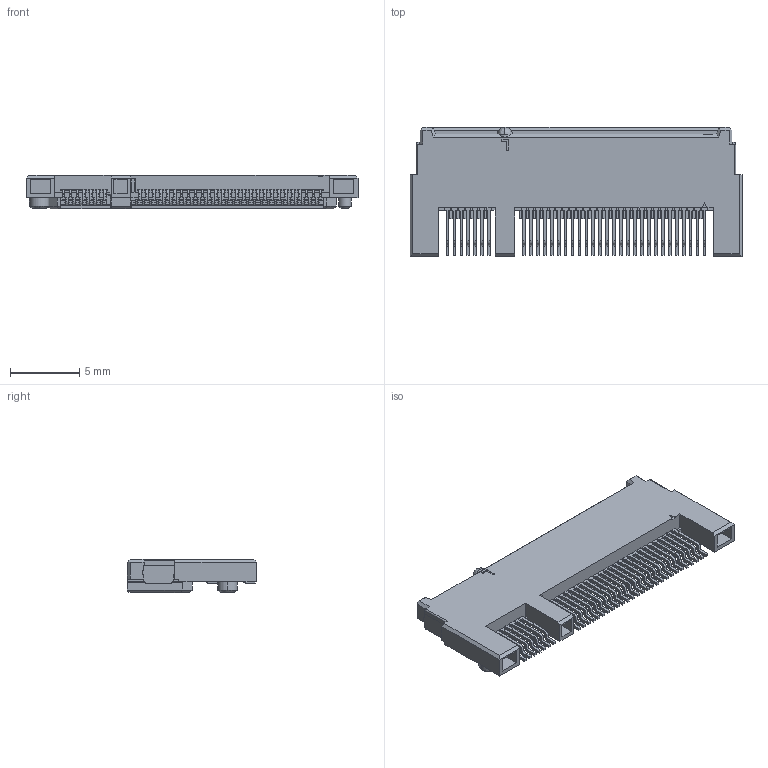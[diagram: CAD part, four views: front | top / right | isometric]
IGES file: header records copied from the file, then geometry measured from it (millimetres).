
Start section: SolidWorks IGES file using analytic representation for surfaces
Global section: file name: Q:\Kamikawa_Hisako\170121\MK\M1.8_000\20_6411_067_000_883L.IGS; native system: SolidWorks 2014; preprocessor: SolidWorks 2014; author: 151066016; date: 170125.094454; units: millimetre
Bounding box: 23.9 x 9.3 x 2.42 mm (x, y, z)
Surface area: 826.6 mm2 (no closed solid volume)
Topology: 0 solids, 0 shells, 2119 faces, 14610 edges, 14610 vertices
Faces by surface type: bspline 1650, revolution 469
